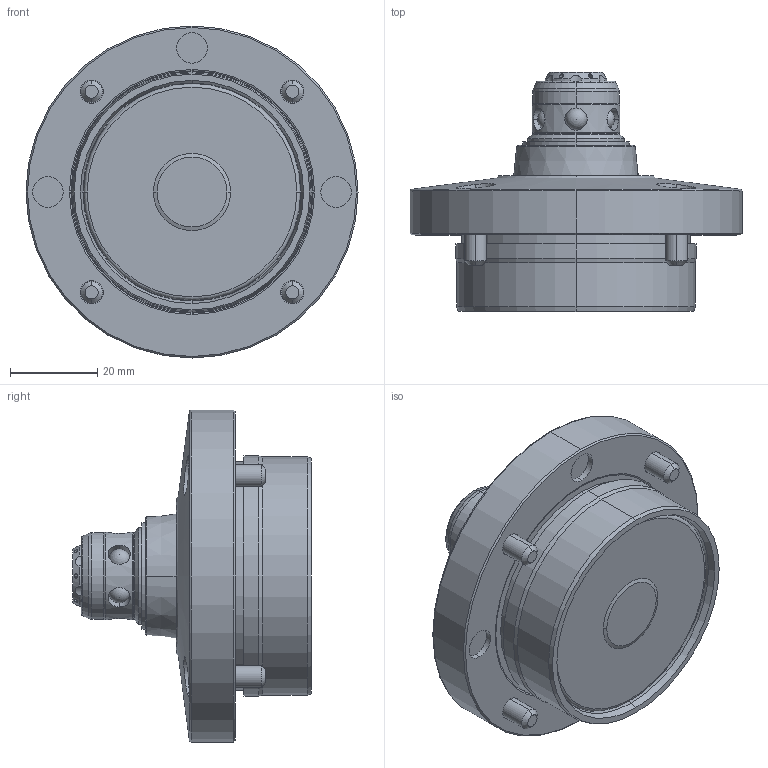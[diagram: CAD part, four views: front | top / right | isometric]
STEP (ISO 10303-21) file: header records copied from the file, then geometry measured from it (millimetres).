
FILE_DESCRIPTION (( 'STEP AP203' ), '1' );
FILE_NAME ('SWT0030-MD.step', '2010-08-04T09:04:24', ( ' ' ), ( ' ' ), 'SwSTEP 2.0', 'SolidWorks 2010', '' );
FILE_SCHEMA (( 'CONFIG_CONTROL_DESIGN' ));
Length unit declared in the file: millimetre
Products named in the file (8): 4SW100122; 鋼球_5; 6妏寠晅无倌_M5_12; SWT0030-MD; 4SW100126; 4SW100127; SWT0030_rubberplate; FRS-22S
Assembly tree (15 placements, depth 2):
  SWT0030-MD
    6妏寠晅无倌_M5_12  x4
    鋼球_5  x6
    4SW100127
    FRS-22S
    SWT0030_rubberplate
    4SW100122
    4SW100126
Bounding box: 76 x 54.7 x 76 mm (x, y, z)
Volume: 98394.9 mm3; surface area: 30608.8 mm2
Topology: 16 solids, 16 shells, 351 faces, 750 edges, 433 vertices
Faces by surface type: cylinder 128, plane 98, cone 89, torus 24, sphere 12
Entity records: 8769 total; most frequent: CARTESIAN_POINT 2194, DIRECTION 1243, ORIENTED_EDGE 1092, EDGE_CURVE 546, AXIS2_PLACEMENT_3D 533, VERTEX_POINT 330, EDGE_LOOP 296, CIRCLE 267
